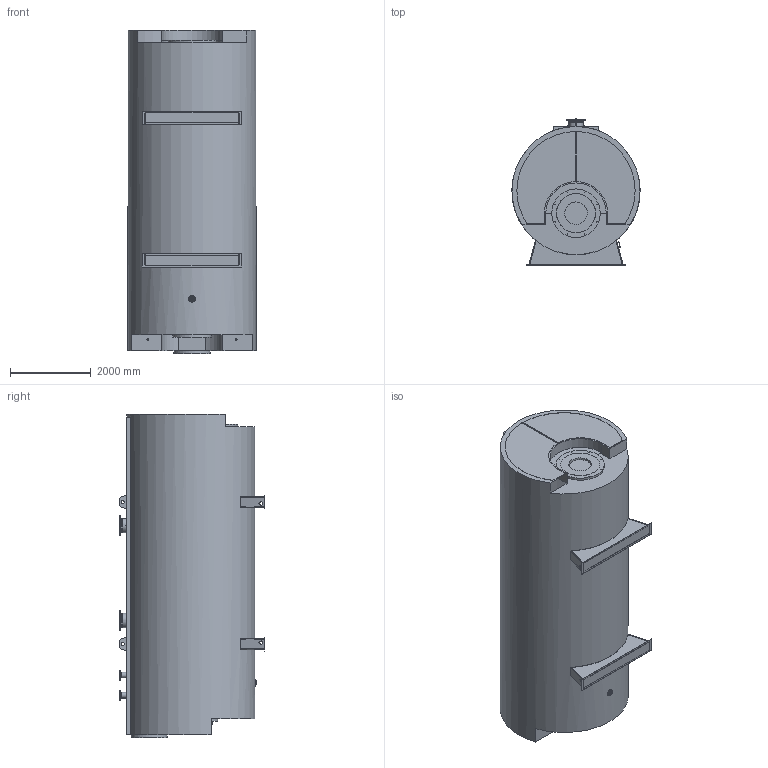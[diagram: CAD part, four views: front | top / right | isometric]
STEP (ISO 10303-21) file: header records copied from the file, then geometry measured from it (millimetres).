
FILE_DESCRIPTION(('TFLEX Exchange Step'),'2;1');
FILE_NAME('MA4A005_7722115.stp', '2024-08-30T10:22:02+03:00',('kort'),('Unknown organisation'),'TFLEX Exchange 2024.2','T-FLEX CAD','Unknown authorisation');
FILE_SCHEMA( ('AUTOMOTIVE_DESIGN { 1 0 10303 214 1 1 1 1 }') );
Length unit declared in the file: millimetre
Products named in the file (1): 7372429 Grundkessel MA4A0_5
Bounding box: 3178.33 x 3619 x 8035 mm (x, y, z)
Volume: 61369804516.6 mm3; surface area: 111212989.5 mm2
Topology: 1 solids, 1 shells, 424 faces, 1182 edges, 809 vertices
Faces by surface type: plane 188, cylinder 183, torus 22, cone 14, bspline 12, extrusion 5
Full cylindrical faces by diameter (mm): 2.2 x4, 3.2 x4, 3.3 x4, 4 x4, 6.5 x4, 13 x4, 14 x8, 18 x20, 22 x24, 41.9 x2, 47.8 x2, 48.3 x2, 80 x6, 102 x1, 140 x2, 165 x1, 188 x2, 191 x2, 250 x2, 335 x2, 355 x2, 355.6 x4, 490 x2, 560 x1, 615 x2, 900 x1, 1200 x1, 3179 x1
Entity records: 16077 total; most frequent: CARTESIAN_POINT 4322, DIRECTION 2577, ORIENTED_EDGE 2366, EDGE_CURVE 1183, AXIS2_PLACEMENT_3D 1035, VERTEX_POINT 811, CIRCLE 600, EDGE_LOOP 594
